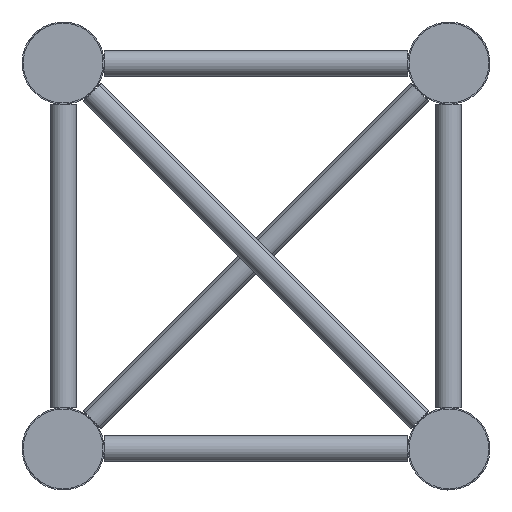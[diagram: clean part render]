
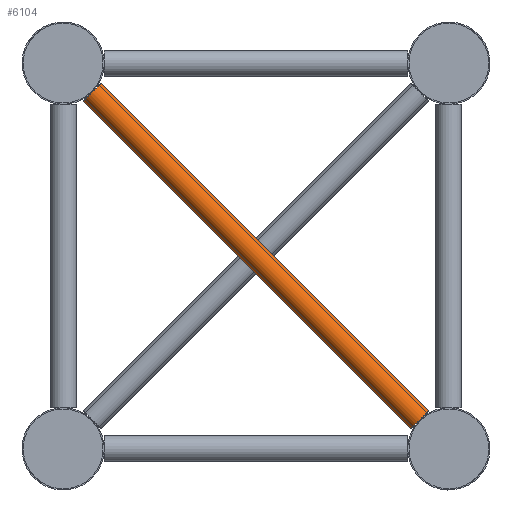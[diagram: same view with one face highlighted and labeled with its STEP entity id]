
A CAD part, left-side view. The second image highlights one B-rep face of the part: STEP entity #6104.
In plain terms, the highlighted cylindrical face has radius 8 mm (diameter 16 mm), a full revolution.
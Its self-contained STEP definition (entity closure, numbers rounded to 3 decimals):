
#327=B_SPLINE_CURVE_WITH_KNOTS('',3,(#9757,#9758,#9759,#9760,#9761,#9762),
 .UNSPECIFIED.,.F.,.F.,(4,2,4),(1.187,1.214,1.242),
 .UNSPECIFIED.);
#329=B_SPLINE_CURVE_WITH_KNOTS('',3,(#9775,#9776,#9777,#9778,#9779,#9780),
 .UNSPECIFIED.,.F.,.F.,(4,2,4),(3.616,3.643,3.67),
 .UNSPECIFIED.);
#334=B_SPLINE_CURVE_WITH_KNOTS('',3,(#9902,#9903,#9904,#9905,#9906,#9907),
 .UNSPECIFIED.,.F.,.F.,(4,2,4),(1.187,1.214,1.242),
 .UNSPECIFIED.);
#335=B_SPLINE_CURVE_WITH_KNOTS('',3,(#9911,#9912,#9913,#9914,#9915,#9916),
 .UNSPECIFIED.,.F.,.F.,(4,2,4),(3.616,3.643,3.67),
 .UNSPECIFIED.);
#766=CYLINDRICAL_SURFACE('',#6644,8.);
#969=FACE_BOUND('',#1819,.T.);
#1247=FACE_OUTER_BOUND('',#1818,.T.);
#1818=EDGE_LOOP('',(#3967,#3968,#3969,#3970));
#1819=EDGE_LOOP('',(#3971,#3972,#3973,#3974));
#2459=CIRCLE('',#6643,8.);
#2460=CIRCLE('',#6645,8.);
#2461=CIRCLE('',#6646,8.);
#2462=CIRCLE('',#6647,8.);
#2690=VERTEX_POINT('',#9754);
#2691=VERTEX_POINT('',#9756);
#2694=VERTEX_POINT('',#9772);
#2695=VERTEX_POINT('',#9774);
#2744=VERTEX_POINT('',#9900);
#2745=VERTEX_POINT('',#9901);
#2746=VERTEX_POINT('',#9908);
#2747=VERTEX_POINT('',#9910);
#3124=EDGE_CURVE('',#2691,#2690,#327,.T.);
#3128=EDGE_CURVE('',#2695,#2694,#329,.T.);
#3167=EDGE_CURVE('',#2690,#2695,#2459,.T.);
#3168=EDGE_CURVE('',#2744,#2745,#334,.T.);
#3169=EDGE_CURVE('',#2745,#2746,#2460,.T.);
#3170=EDGE_CURVE('',#2746,#2747,#335,.T.);
#3171=EDGE_CURVE('',#2747,#2744,#2461,.T.);
#3172=EDGE_CURVE('',#2694,#2691,#2462,.T.);
#3967=ORIENTED_EDGE('',*,*,#3168,.T.);
#3968=ORIENTED_EDGE('',*,*,#3169,.T.);
#3969=ORIENTED_EDGE('',*,*,#3170,.T.);
#3970=ORIENTED_EDGE('',*,*,#3171,.T.);
#3971=ORIENTED_EDGE('',*,*,#3124,.T.);
#3972=ORIENTED_EDGE('',*,*,#3167,.T.);
#3973=ORIENTED_EDGE('',*,*,#3128,.T.);
#3974=ORIENTED_EDGE('',*,*,#3172,.T.);
#6104=ADVANCED_FACE('',(#1247,#969),#766,.T.);
#6643=AXIS2_PLACEMENT_3D('',#9898,#7727,#7728);
#6644=AXIS2_PLACEMENT_3D('',#9899,#7729,#7730);
#6645=AXIS2_PLACEMENT_3D('',#9909,#7731,#7732);
#6646=AXIS2_PLACEMENT_3D('',#9917,#7733,#7734);
#6647=AXIS2_PLACEMENT_3D('',#9918,#7735,#7736);
#7727=DIRECTION('center_axis',(0.,-0.707,
-0.707));
#7728=DIRECTION('ref_axis',(0.,0.707,-0.707));
#7729=DIRECTION('center_axis',(0.,0.707,
0.707));
#7730=DIRECTION('ref_axis',(0.,0.707,-0.707));
#7731=DIRECTION('center_axis',(0.,0.707,
0.707));
#7732=DIRECTION('ref_axis',(0.,0.707,-0.707));
#7733=DIRECTION('center_axis',(0.,0.707,
0.707));
#7734=DIRECTION('ref_axis',(0.,0.707,-0.707));
#7735=DIRECTION('center_axis',(0.,-0.707,
-0.707));
#7736=DIRECTION('ref_axis',(0.,0.707,-0.707));
#9754=CARTESIAN_POINT('',(67.995,220.776,-17.836));
#9756=CARTESIAN_POINT('',(67.995,221.164,-18.224));
#9757=CARTESIAN_POINT('Ctrl Pts',(67.995,221.164,-18.224));
#9758=CARTESIAN_POINT('Ctrl Pts',(67.998,221.098,-18.16));
#9759=CARTESIAN_POINT('Ctrl Pts',(68.,221.033,-18.096));
#9760=CARTESIAN_POINT('Ctrl Pts',(68.,220.904,-17.967));
#9761=CARTESIAN_POINT('Ctrl Pts',(67.998,220.84,-17.902));
#9762=CARTESIAN_POINT('Ctrl Pts',(67.995,220.776,-17.836));
#9772=CARTESIAN_POINT('',(52.005,221.164,-18.224));
#9774=CARTESIAN_POINT('',(52.005,220.776,-17.836));
#9775=CARTESIAN_POINT('Ctrl Pts',(52.005,220.776,-17.836));
#9776=CARTESIAN_POINT('Ctrl Pts',(52.002,220.84,-17.902));
#9777=CARTESIAN_POINT('Ctrl Pts',(52.,220.904,-17.967));
#9778=CARTESIAN_POINT('Ctrl Pts',(52.,221.033,-18.096));
#9779=CARTESIAN_POINT('Ctrl Pts',(52.002,221.098,-18.16));
#9780=CARTESIAN_POINT('Ctrl Pts',(52.005,221.164,-18.224));
#9898=CARTESIAN_POINT('Origin',(60.,220.97,-18.03));
#9899=CARTESIAN_POINT('Origin',(60.,119.5,-119.5));
#9900=CARTESIAN_POINT('',(52.005,18.224,-221.164));
#9901=CARTESIAN_POINT('',(52.005,17.836,-220.776));
#9902=CARTESIAN_POINT('Ctrl Pts',(52.005,18.224,-221.164));
#9903=CARTESIAN_POINT('Ctrl Pts',(52.002,18.16,-221.098));
#9904=CARTESIAN_POINT('Ctrl Pts',(52.,18.096,-221.033));
#9905=CARTESIAN_POINT('Ctrl Pts',(52.,17.967,-220.904));
#9906=CARTESIAN_POINT('Ctrl Pts',(52.002,17.902,-220.84));
#9907=CARTESIAN_POINT('Ctrl Pts',(52.005,17.836,-220.776));
#9908=CARTESIAN_POINT('',(67.995,17.836,-220.776));
#9909=CARTESIAN_POINT('Origin',(60.,18.03,-220.97));
#9910=CARTESIAN_POINT('',(67.995,18.224,-221.164));
#9911=CARTESIAN_POINT('Ctrl Pts',(67.995,17.836,-220.776));
#9912=CARTESIAN_POINT('Ctrl Pts',(67.998,17.902,-220.84));
#9913=CARTESIAN_POINT('Ctrl Pts',(68.,17.967,-220.904));
#9914=CARTESIAN_POINT('Ctrl Pts',(68.,18.096,-221.033));
#9915=CARTESIAN_POINT('Ctrl Pts',(67.998,18.16,-221.098));
#9916=CARTESIAN_POINT('Ctrl Pts',(67.995,18.224,-221.164));
#9917=CARTESIAN_POINT('Origin',(60.,18.03,-220.97));
#9918=CARTESIAN_POINT('Origin',(60.,220.97,-18.03));
